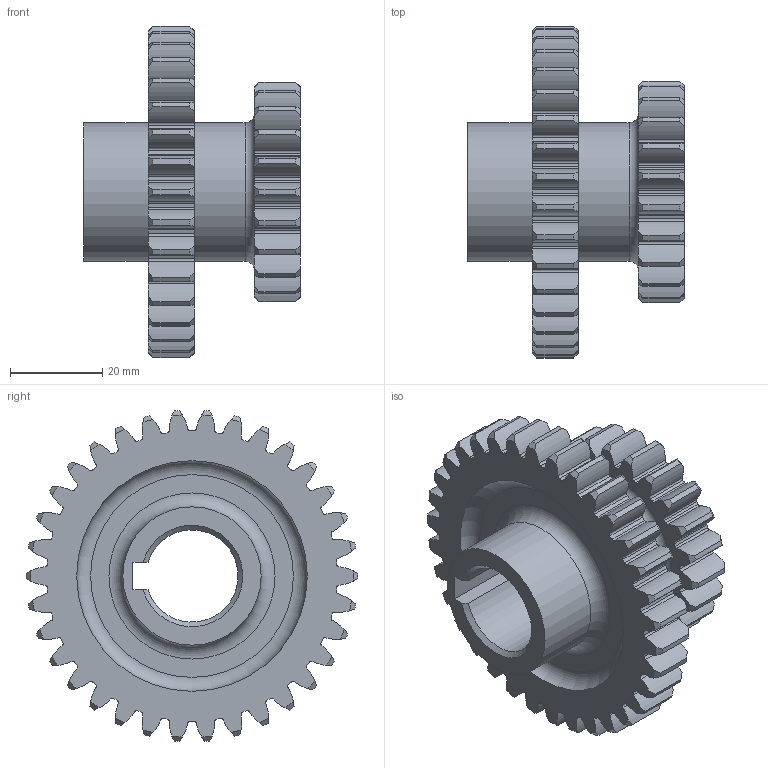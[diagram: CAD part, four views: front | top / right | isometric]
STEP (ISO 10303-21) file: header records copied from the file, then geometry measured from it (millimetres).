
FILE_DESCRIPTION(/* description */ (''),/* implementation_level */ '2;1');
FILE_NAME(/* name */ 'D:\010_ATC_시험관련\기계캐드마스터\20180808_하우디자인_수시\1급\답안작성용\수험번호-스퍼기어.stp',/* time_stamp */ '2018-08-07T23:29:06+09:00',/* author */ ('mduedu'),/* organization */ (''),/* preprocessor_version */ 'ST-DEVELOPER v17',/* originating_system */ 'Autodesk Inventor 2018',/* authorisation */ '');
FILE_SCHEMA (('AUTOMOTIVE_DESIGN { 1 0 10303 214 3 1 1 }'));
Length unit declared in the file: millimetre
Products named in the file (1): 스퍼기어
Bounding box: 47 x 72 x 71.79 mm (x, y, z)
Volume: 47807 mm3; surface area: 21268.7 mm2
Topology: 1 solids, 1 shells, 468 faces, 1389 edges, 928 vertices
Faces by surface type: cylinder 339, cone 114, plane 10, torus 5
Full cylindrical faces by diameter (mm): 30 x2
Entity records: 16417 total; most frequent: CARTESIAN_POINT 3466, DIRECTION 2912, ORIENTED_EDGE 2778, EDGE_CURVE 1389, AXIS2_PLACEMENT_3D 1282, VERTEX_POINT 928, CIRCLE 813, EDGE_LOOP 475
